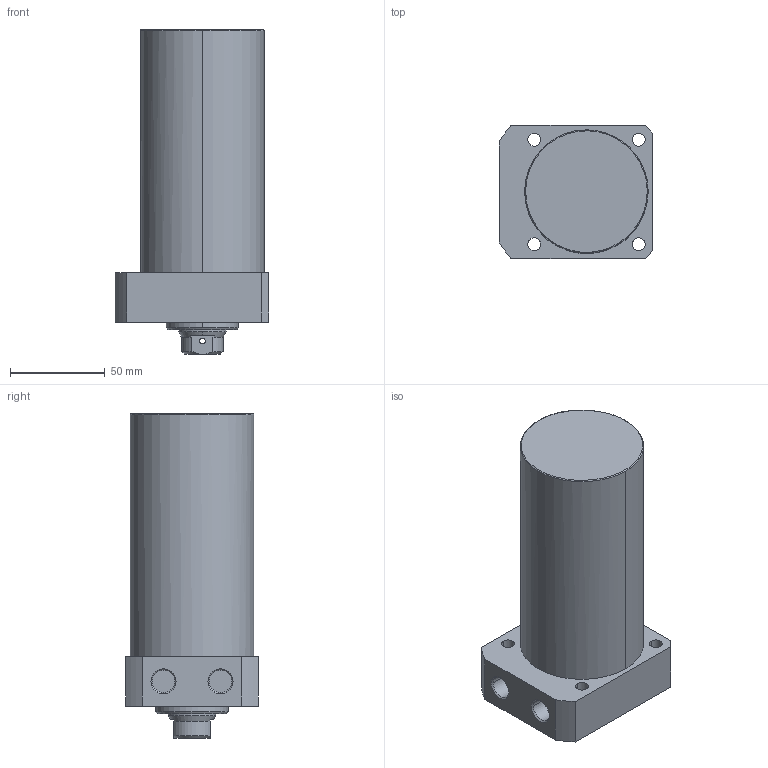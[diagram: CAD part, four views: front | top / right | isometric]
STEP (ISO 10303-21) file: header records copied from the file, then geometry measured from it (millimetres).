
FILE_DESCRIPTION((' '),'2;1');
FILE_NAME( 'TLLR-065CB-095.STEP.stp', '2025-10-24T16:34:56', (' '), ('--- Datakit www.datakit.com---'), ' Datakit CrossCadWare V2024.1 Dec 21 2023', 'Mastercam 2025', ' ');
FILE_SCHEMA(('AUTOMOTIVE_DESIGN { 1 0 10303 214 1 1 1 1 }'));
Length unit declared in the file: millimetre
Products named in the file (1): TLLR-065CB-095
Bounding box: 81 x 70 x 171 mm (x, y, z)
Volume: 568629.9 mm3; surface area: 50608.4 mm2
Topology: 1 solids, 1 shells, 67 faces, 197 edges, 136 vertices
Faces by surface type: cylinder 32, plane 19, cone 14, torus 2
Entity records: 3278 total; most frequent: CARTESIAN_POINT 1359, DIRECTION 426, ORIENTED_EDGE 390, EDGE_CURVE 195, AXIS2_PLACEMENT_3D 179, VERTEX_POINT 136, CIRCLE 111, EDGE_LOOP 85
